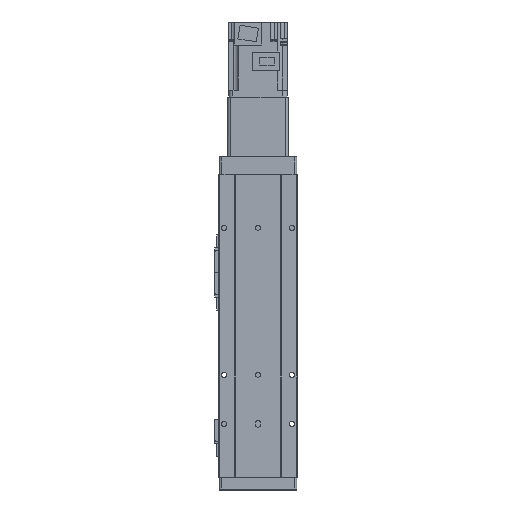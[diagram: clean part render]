
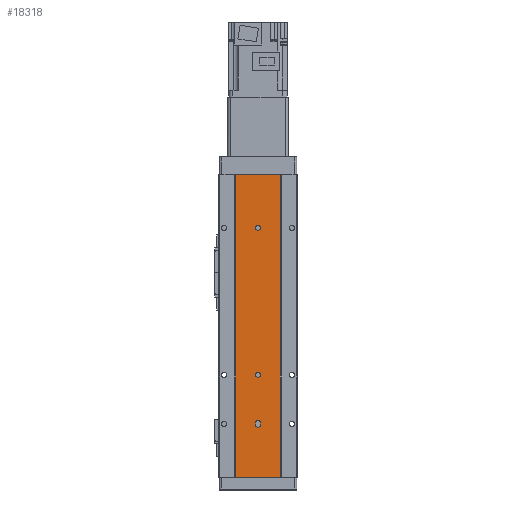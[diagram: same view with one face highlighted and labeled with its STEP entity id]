
A CAD part, front view. The second image highlights one B-rep face of the part: STEP entity #18318.
In plain terms, the highlighted planar face has unit normal (0, -1, 0).
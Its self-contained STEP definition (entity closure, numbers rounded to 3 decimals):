
#4123 = AXIS2_PLACEMENT_3D ( 'NONE', #6859, #6872, #6883 ) ;
#4145 = AXIS2_PLACEMENT_3D ( 'NONE', #9199, #9192, #9191 ) ;
#4161 = AXIS2_PLACEMENT_3D ( 'NONE', #7806, #7816, #7799 ) ;
#4783 = AXIS2_PLACEMENT_3D ( 'NONE', #31947, #31936, #31957 ) ;
#4818 = AXIS2_PLACEMENT_3D ( 'NONE', #32142, #32186, #32127 ) ;
#4820 = AXIS2_PLACEMENT_3D ( 'NONE', #32017, #32019, #32074 ) ;
#4824 = AXIS2_PLACEMENT_3D ( 'NONE', #31976, #31971, #31978 ) ;
#6859 = CARTESIAN_POINT ( 'NONE',  ( 0., 0.5, -54.5 ) ) ;
#6872 = DIRECTION ( 'NONE',  ( 0., -1., 0. ) ) ;
#6883 = DIRECTION ( 'NONE',  ( 1., 0., 0. ) ) ;
#7799 = DIRECTION ( 'NONE',  ( 1., 0., 0. ) ) ;
#7806 = CARTESIAN_POINT ( 'NONE',  ( 0., 0.5, -255.5 ) ) ;
#7816 = DIRECTION ( 'NONE',  ( 0., -1., 0. ) ) ;
#7958 = CIRCLE ( 'NONE', #4161, 2.5 ) ;
#8055 = CIRCLE ( 'NONE', #4145, 2.5 ) ;
#8068 = CIRCLE ( 'NONE', #4123, 2.5 ) ;
#8280 = LINE ( 'NONE', #9852, #8352 ) ;
#8352 = VECTOR ( 'NONE', #9840, 1000. ) ;
#8615 = VECTOR ( 'NONE', #10269, 1000. ) ;
#8637 = LINE ( 'NONE', #10212, #8615 ) ;
#9191 = DIRECTION ( 'NONE',  ( 1., 0., 0. ) ) ;
#9192 = DIRECTION ( 'NONE',  ( 0., -1., 0. ) ) ;
#9199 = CARTESIAN_POINT ( 'NONE',  ( 0., 0.5, -204.5 ) ) ;
#9840 = DIRECTION ( 'NONE',  ( 1., 0., 0. ) ) ;
#9852 = CARTESIAN_POINT ( 'NONE',  ( -23., 0.5, -309. ) ) ;
#10212 = CARTESIAN_POINT ( 'NONE',  ( -23., 0.5, 0. ) ) ;
#10269 = DIRECTION ( 'NONE',  ( 1., 0., 0. ) ) ;
#14396 = VERTEX_POINT ( 'NONE', #20079 ) ;
#14418 = VERTEX_POINT ( 'NONE', #20087 ) ;
#14432 = VERTEX_POINT ( 'NONE', #17160 ) ;
#14433 = VERTEX_POINT ( 'NONE', #17163 ) ;
#14773 = VERTEX_POINT ( 'NONE', #26024 ) ;
#14789 = VERTEX_POINT ( 'NONE', #26036 ) ;
#14801 = VERTEX_POINT ( 'NONE', #25990 ) ;
#15600 = VERTEX_POINT ( 'NONE', #26466 ) ;
#15613 = VERTEX_POINT ( 'NONE', #26424 ) ;
#15618 = VERTEX_POINT ( 'NONE', #26438 ) ;
#15643 = VERTEX_POINT ( 'NONE', #26420 ) ;
#15682 = VERTEX_POINT ( 'NONE', #26517 ) ;
#15704 = VERTEX_POINT ( 'NONE', #26498 ) ;
#17160 = CARTESIAN_POINT ( 'NONE',  ( -23., 0.5, 0. ) ) ;
#17163 = CARTESIAN_POINT ( 'NONE',  ( 23., 0.5, -309. ) ) ;
#18318 = ADVANCED_FACE ( 'NONE', ( #35818, #35835, #35837, #35834 ), #35315, .T. ) ;
#19496 = AXIS2_PLACEMENT_3D ( 'NONE', #35322, #35324, #35310 ) ;
#20079 = CARTESIAN_POINT ( 'NONE',  ( 23., 0.5, 0. ) ) ;
#20087 = CARTESIAN_POINT ( 'NONE',  ( -23., 0.5, -309. ) ) ;
#20229 = EDGE_LOOP ( 'NONE', ( #44339, #44320 ) ) ;
#20276 = EDGE_LOOP ( 'NONE', ( #44322, #44317, #44272, #44308 ) ) ;
#20299 = EDGE_LOOP ( 'NONE', ( #44267, #44242, #44259, #44270, #44264 ) ) ;
#20300 = EDGE_LOOP ( 'NONE', ( #44243, #44299 ) ) ;
#25990 = CARTESIAN_POINT ( 'NONE',  ( -2.5, 0.5, -255.5 ) ) ;
#26024 = CARTESIAN_POINT ( 'NONE',  ( 2.5, 0.5, -253.5 ) ) ;
#26036 = CARTESIAN_POINT ( 'NONE',  ( -2.5, 0.5, -253.5 ) ) ;
#26420 = CARTESIAN_POINT ( 'NONE',  ( 0., 0.5, -207. ) ) ;
#26424 = CARTESIAN_POINT ( 'NONE',  ( 2.5, 0.5, -255.5 ) ) ;
#26438 = CARTESIAN_POINT ( 'NONE',  ( 0., 0.5, -202. ) ) ;
#26466 = CARTESIAN_POINT ( 'NONE',  ( 0., 0.5, -258. ) ) ;
#26498 = CARTESIAN_POINT ( 'NONE',  ( 0., 0.5, -57. ) ) ;
#26517 = CARTESIAN_POINT ( 'NONE',  ( 0., 0.5, -52. ) ) ;
#29027 = LINE ( 'NONE', #32002, #29029 ) ;
#29029 = VECTOR ( 'NONE', #31963, 1000. ) ;
#29037 = CIRCLE ( 'NONE', #4824, 2.5 ) ;
#29043 = CIRCLE ( 'NONE', #4820, 2.5 ) ;
#30223 = CIRCLE ( 'NONE', #4783, 2.5 ) ;
#30231 = LINE ( 'NONE', #31995, #30267 ) ;
#30248 = LINE ( 'NONE', #31972, #30249 ) ;
#30249 = VECTOR ( 'NONE', #31980, 1000. ) ;
#30267 = VECTOR ( 'NONE', #31974, 1000. ) ;
#31936 = DIRECTION ( 'NONE',  ( 0., -1., 0. ) ) ;
#31947 = CARTESIAN_POINT ( 'NONE',  ( 0., 0.5, -204.5 ) ) ;
#31957 = DIRECTION ( 'NONE',  ( 1., 0., 0. ) ) ;
#31963 = DIRECTION ( 'NONE',  ( 0., 0., -1. ) ) ;
#31971 = DIRECTION ( 'NONE',  ( 0., -1., 0. ) ) ;
#31972 = CARTESIAN_POINT ( 'NONE',  ( 2.5, 0.5, -309. ) ) ;
#31974 = DIRECTION ( 'NONE',  ( 0., 0., 1. ) ) ;
#31976 = CARTESIAN_POINT ( 'NONE',  ( 0., 0.5, -255.5 ) ) ;
#31978 = DIRECTION ( 'NONE',  ( 1., 0., 0. ) ) ;
#31980 = DIRECTION ( 'NONE',  ( 0., 0., 1. ) ) ;
#31995 = CARTESIAN_POINT ( 'NONE',  ( 23., 0.5, -309. ) ) ;
#32002 = CARTESIAN_POINT ( 'NONE',  ( -2.5, 0.5, -309. ) ) ;
#32017 = CARTESIAN_POINT ( 'NONE',  ( 0., 0.5, -253.5 ) ) ;
#32019 = DIRECTION ( 'NONE',  ( 0., -1., 0. ) ) ;
#32074 = DIRECTION ( 'NONE',  ( 1., 0., 0. ) ) ;
#32127 = DIRECTION ( 'NONE',  ( 1., 0., 0. ) ) ;
#32142 = CARTESIAN_POINT ( 'NONE',  ( 0., 0.5, -54.5 ) ) ;
#32186 = DIRECTION ( 'NONE',  ( 0., -1., 0. ) ) ;
#32197 = CARTESIAN_POINT ( 'NONE',  ( -23., 0.5, -309. ) ) ;
#32235 = DIRECTION ( 'NONE',  ( 0., 0., 1. ) ) ;
#32606 = VECTOR ( 'NONE', #32235, 1000. ) ;
#32622 = LINE ( 'NONE', #32197, #32606 ) ;
#32640 = CIRCLE ( 'NONE', #4818, 2.5 ) ;
#35310 = DIRECTION ( 'NONE',  ( 1., 0., 0. ) ) ;
#35315 = PLANE ( 'NONE',  #19496 ) ;
#35322 = CARTESIAN_POINT ( 'NONE',  ( -23., 0.5, -309. ) ) ;
#35324 = DIRECTION ( 'NONE',  ( 0., -1., 0. ) ) ;
#35818 = FACE_BOUND ( 'NONE', #20299, .T. ) ;
#35834 = FACE_OUTER_BOUND ( 'NONE', #20276, .T. ) ;
#35835 = FACE_BOUND ( 'NONE', #20229, .T. ) ;
#35837 = FACE_BOUND ( 'NONE', #20300, .T. ) ;
#40650 = EDGE_CURVE ( 'NONE', #15600, #15613, #7958, .T. ) ;
#40663 = EDGE_CURVE ( 'NONE', #15682, #15704, #8068, .T. ) ;
#40680 = EDGE_CURVE ( 'NONE', #15618, #15643, #8055, .T. ) ;
#40867 = EDGE_CURVE ( 'NONE', #14418, #14433, #8280, .T. ) ;
#40965 = EDGE_CURVE ( 'NONE', #14432, #14396, #8637, .T. ) ;
#43675 = EDGE_CURVE ( 'NONE', #15643, #15618, #30223, .T. ) ;
#43690 = EDGE_CURVE ( 'NONE', #14433, #14396, #30231, .T. ) ;
#43692 = EDGE_CURVE ( 'NONE', #15613, #14773, #30248, .T. ) ;
#43704 = EDGE_CURVE ( 'NONE', #14801, #15600, #29037, .T. ) ;
#43705 = EDGE_CURVE ( 'NONE', #14789, #14801, #29027, .T. ) ;
#43724 = EDGE_CURVE ( 'NONE', #14773, #14789, #29043, .T. ) ;
#43755 = EDGE_CURVE ( 'NONE', #15704, #15682, #32640, .T. ) ;
#43769 = EDGE_CURVE ( 'NONE', #14418, #14432, #32622, .T. ) ;
#44242 = ORIENTED_EDGE ( 'NONE', *, *, #43705, .F. ) ;
#44243 = ORIENTED_EDGE ( 'NONE', *, *, #43755, .F. ) ;
#44259 = ORIENTED_EDGE ( 'NONE', *, *, #43724, .F. ) ;
#44264 = ORIENTED_EDGE ( 'NONE', *, *, #40650, .F. ) ;
#44267 = ORIENTED_EDGE ( 'NONE', *, *, #43704, .F. ) ;
#44270 = ORIENTED_EDGE ( 'NONE', *, *, #43692, .F. ) ;
#44272 = ORIENTED_EDGE ( 'NONE', *, *, #40867, .T. ) ;
#44299 = ORIENTED_EDGE ( 'NONE', *, *, #40663, .F. ) ;
#44308 = ORIENTED_EDGE ( 'NONE', *, *, #43690, .T. ) ;
#44317 = ORIENTED_EDGE ( 'NONE', *, *, #43769, .F. ) ;
#44320 = ORIENTED_EDGE ( 'NONE', *, *, #40680, .F. ) ;
#44322 = ORIENTED_EDGE ( 'NONE', *, *, #40965, .F. ) ;
#44339 = ORIENTED_EDGE ( 'NONE', *, *, #43675, .F. ) ;
